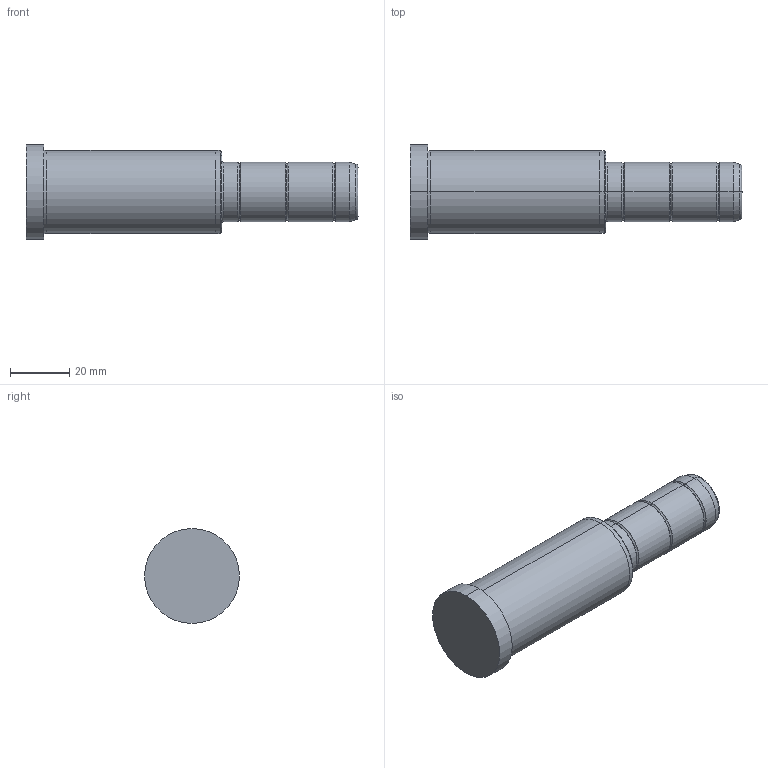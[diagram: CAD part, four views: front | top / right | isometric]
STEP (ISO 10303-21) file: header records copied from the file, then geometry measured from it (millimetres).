
FILE_DESCRIPTION( ( 'STEP AP203' ), '1' );
FILE_NAME( 'C:/Projects/D02 - 20x66x46.step', '2003-01-04T13:53:11', ( ' ' ), ( ' ' ), 'XStep 1.0', ' ', ' ' );
FILE_SCHEMA( ( 'CONFIG_CONTROL_DESIGN' ) );
Length unit declared in the file: metre
Products named in the file (1): 1
Bounding box: 112 x 32 x 32 mm (x, y, z)
Volume: 56112 mm3; surface area: 10380.9 mm2
Topology: 1 solids, 1 shells, 42 faces, 82 edges, 46 vertices
Faces by surface type: bspline 22, revolution 20
Entity records: 1325 total; most frequent: CARTESIAN_POINT 517, ORIENTED_EDGE 164, DIRECTION 134, EDGE_CURVE 82, AXIS2_PLACEMENT_3D 47, EDGE_LOOP 46, VERTEX_POINT 46, CIRCLE 46
